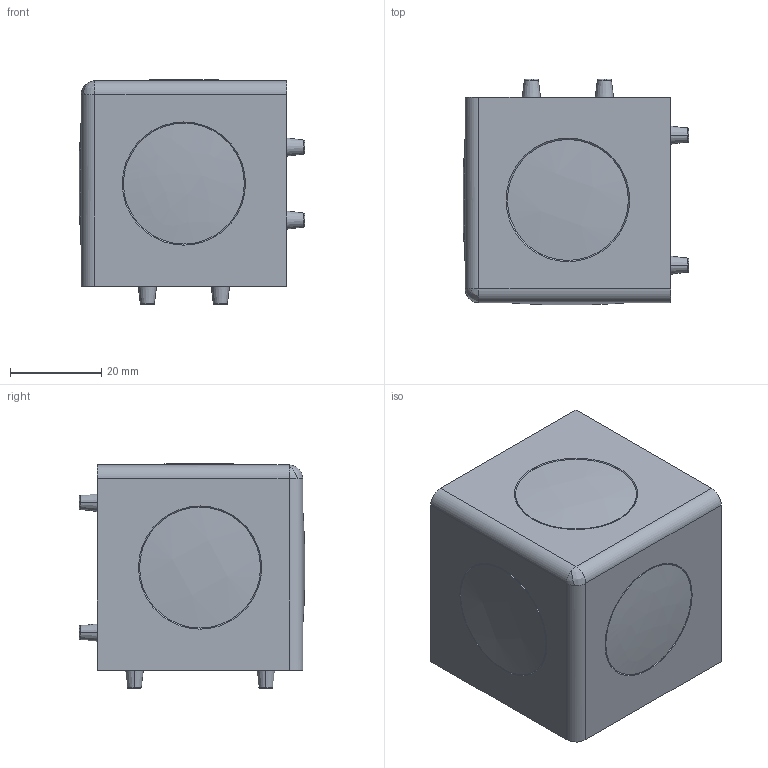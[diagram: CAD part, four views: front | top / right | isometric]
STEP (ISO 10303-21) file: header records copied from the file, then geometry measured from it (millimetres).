
FILE_DESCRIPTION (( 'STEP AP214' ), '1' );
FILE_NAME ('093ww454n10rs.STEP', '2014-07-31T09:21:21', ( 'install' ), ( '' ), 'SwSTEP 2.0', 'SolidWorks 2014', '' );
FILE_SCHEMA (( 'AUTOMOTIVE_DESIGN' ));
Length unit declared in the file: millimetre
Products named in the file (1): 093ww454n10rs
Bounding box: 49.44 x 49.47 x 49.3 mm (x, y, z)
Volume: 59841.1 mm3; surface area: 22034.5 mm2
Topology: 4 solids, 4 shells, 219 faces, 586 edges, 389 vertices
Faces by surface type: cone 77, bspline 70, cylinder 36, plane 36
Entity records: 11054 total; most frequent: CARTESIAN_POINT 3515, ORIENTED_EDGE 1172, DIRECTION 964, EDGE_CURVE 586, AXIS2_PLACEMENT_3D 424, VERTEX_POINT 389, CIRCLE 274, EDGE_LOOP 243
